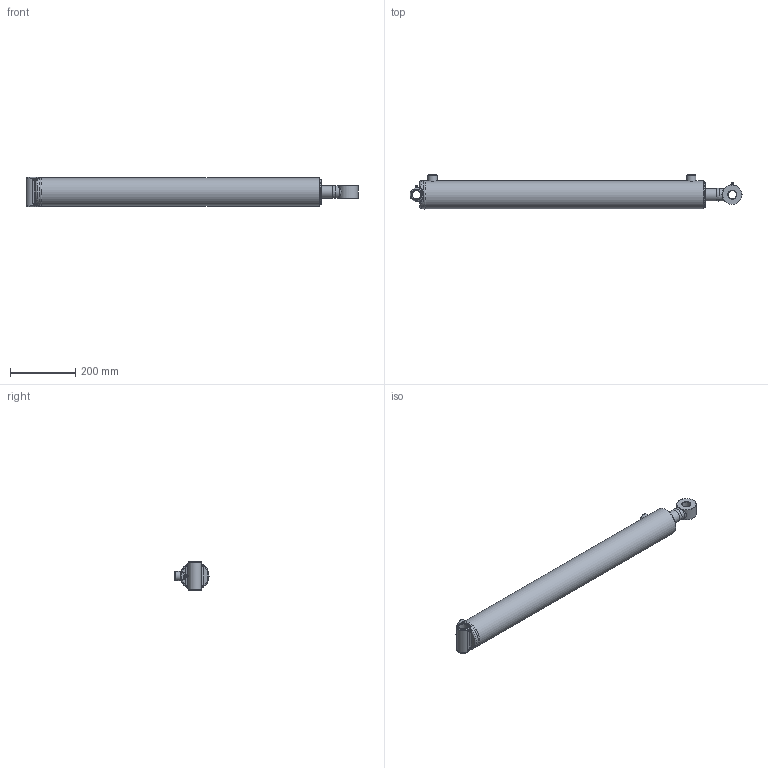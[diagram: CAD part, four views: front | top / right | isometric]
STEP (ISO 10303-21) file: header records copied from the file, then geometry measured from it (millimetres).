
FILE_DESCRIPTION(/* description */ ('Ø3.00 X 30.00 DA'),/* implementation_level */ '2;1');
FILE_NAME(/* name */ 'T:\Aces\Jobs\dcf593f141844a1c9dbc5acfdea85e7d\result.stp',/* time_stamp */ '2024-02-19T19:55:06+00:00',/* author */ ('AJC'),/* organization */ ('PRINCE MANUFACTURING'),/* preprocessor_version */ 'ST-DEVELOPER v18.1',/* originating_system */ 'Autodesk Inventor 2022',/* authorisation */ '');
FILE_SCHEMA (('AUTOMOTIVE_DESIGN { 1 0 10303 214 3 1 1 }'));
Length unit declared in the file: inch
Products named in the file (21): PC3030015A00-380XTXS; 0615-XTSF000-33507; 0515-T-33507; 161500198; 200015603; 06Weld1_C360; 0715-P-100; 220000210; 0815-G-150; 230025104; 230025004; 240000022; 240061334; 240000334; 0208A-HAW2-35813XS; 0108A-HAW2-35813; 210400772; 02Weld_C360; 240020059; 250014150; 270010020
Assembly tree (22 placements, depth 3):
  PC3030015A00-380XTXS
    0615-XTSF000-33507
      0515-T-33507
      161500198
      200015603  x2
      06Weld1_C360
    0715-P-100
    220000210
    0815-G-150
    230025104
    230025004
    240000022
    240061334
    240000334
    0208A-HAW2-35813XS
      0108A-HAW2-35813
      210400772
      02Weld_C360
    240020059
    250014150
    270010020  x2
Bounding box: 1015.24 x 104.04 x 88.9 mm (x, y, z)
Volume: 2534213.8 mm3; surface area: 698324.4 mm2
Topology: 26 solids, 26 shells, 564 faces, 1375 edges, 870 vertices
Faces by surface type: bspline 162, plane 135, torus 95, cylinder 84, cone 84, sphere 4
Full cylindrical faces by diameter (mm): 2.143 x4, 3.175 x1, 5.359 x2, 6.35 x2, 9.525 x2, 12.649 x1, 12.7 x1, 12.725 x1, 17.323 x2, 23.444 x1, 25.349 x1, 25.476 x1, 25.781 x1, 26.162 x1, 27.965 x1, 28.575 x2, 38.1 x1, 38.176 x2, 39.294 x2, 40.132 x1, 40.488 x1, 45.263 x1, 46.457 x1, 47.65 x1, 49.276 x2, 50.8 x2, 61.976 x1, 63.5 x2, 66.777 x2, 67.513 x2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
Entity records: 35075 total; most frequent: CARTESIAN_POINT 22422, ORIENTED_EDGE 2512, DIRECTION 2178, EDGE_CURVE 1256, AXIS2_PLACEMENT_3D 915, VERTEX_POINT 809, EDGE_LOOP 595, FACE_OUTER_BOUND 520
